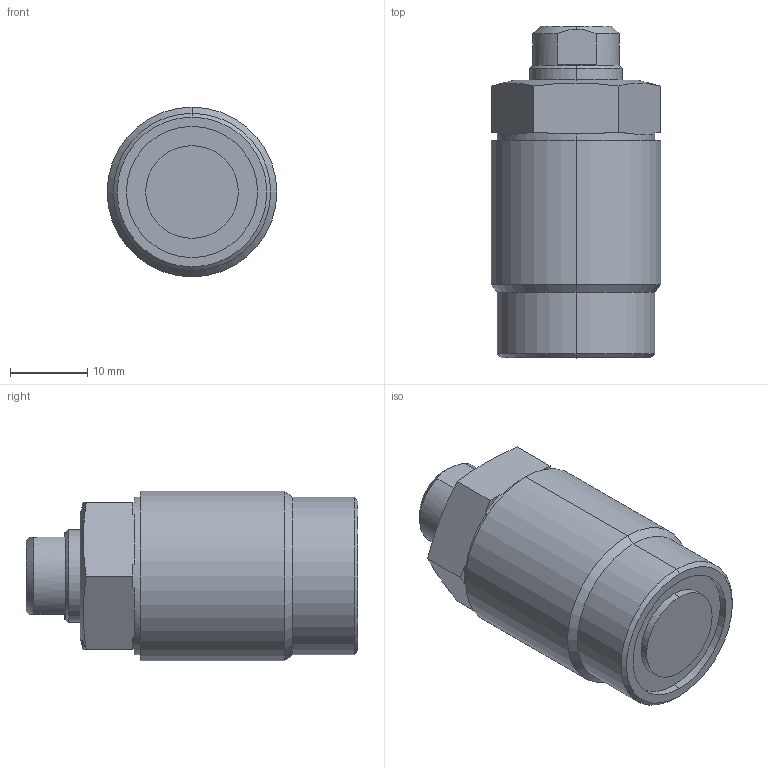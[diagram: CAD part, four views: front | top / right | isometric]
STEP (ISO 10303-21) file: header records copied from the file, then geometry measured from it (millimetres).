
FILE_DESCRIPTION (( 'STEP AP203' ), '1' );
FILE_NAME ('T03C-M221-M threaded pusher.STEP', '2022-07-09T17:35:43', ( '' ), ( '' ), 'SwSTEP 2.0', 'SolidWorks 2017', '' );
FILE_SCHEMA (( 'CONFIG_CONTROL_DESIGN' ));
Length unit declared in the file: millimetre
Products named in the file (3): T03C-M221-M threaded pusher; T03C-M221-M part-1; T03C-M221-M part-2
Assembly tree (2 placements, depth 2):
  T03C-M221-M threaded pusher
    T03C-M221-M part-1
    T03C-M221-M part-2
Bounding box: 22 x 43 x 22 mm (x, y, z)
Volume: 15834.5 mm3; surface area: 4788 mm2
Topology: 2 solids, 2 shells, 244 faces, 642 edges, 423 vertices
Faces by surface type: plane 141, bspline 74, cylinder 16, cone 13
Entity records: 11619 total; most frequent: CARTESIAN_POINT 5908, ORIENTED_EDGE 1280, DIRECTION 819, EDGE_CURVE 640, VERTEX_POINT 423, VECTOR 361, LINE 361, EDGE_LOOP 267
